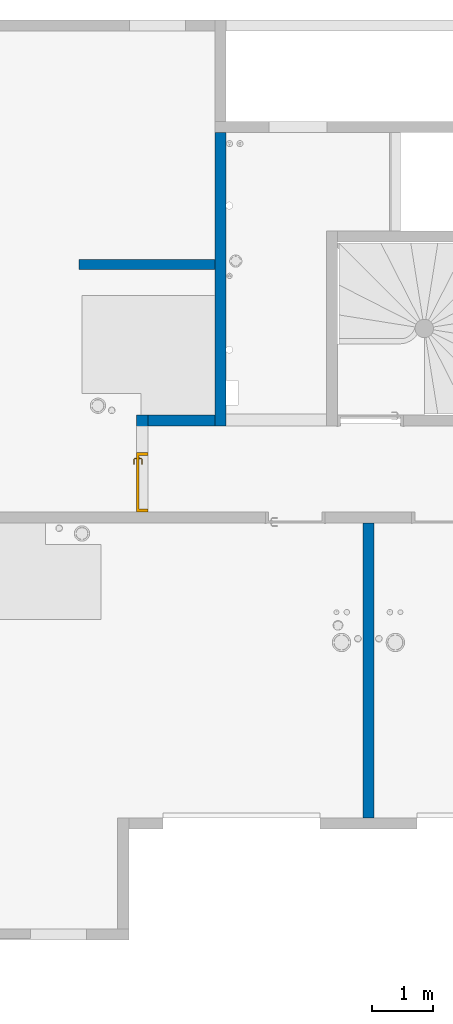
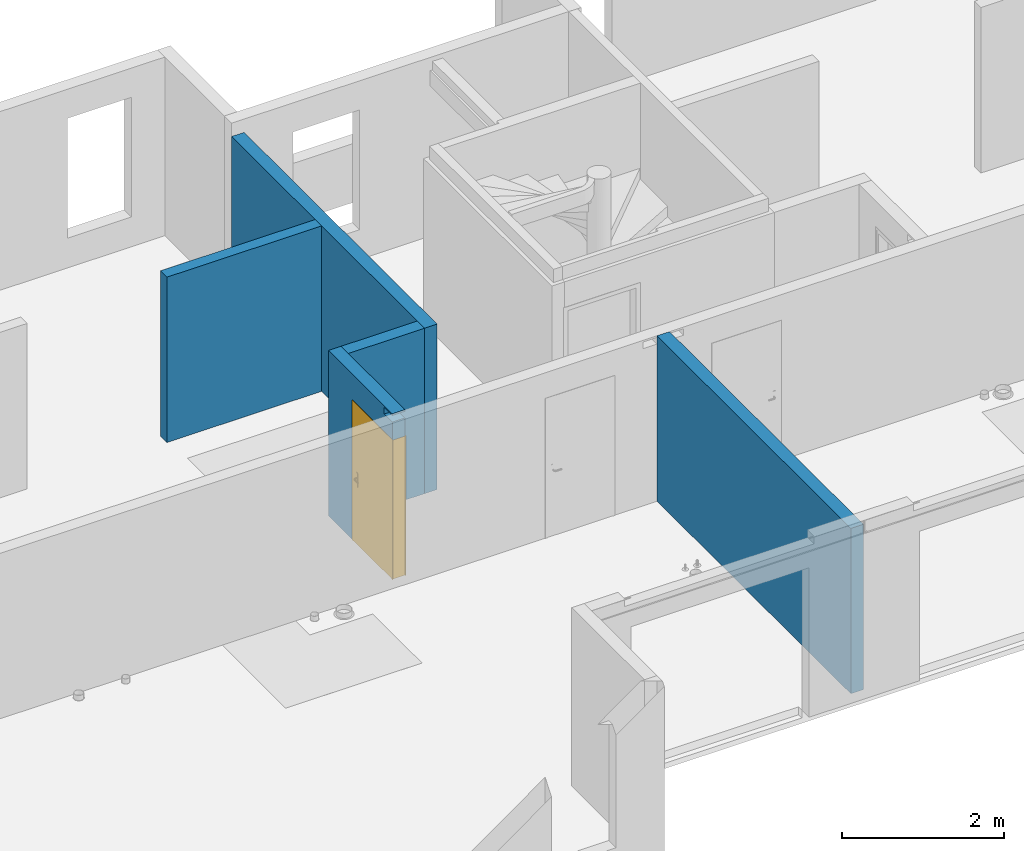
# One storey, part 7 of 24: 5 walls, 1 door, 2 openings.
"""IFC2X3 building model written with IfcOpenShell, lengths in centimetres."""

from ifc_helpers import new_model, entity, si_unit, converted_unit, derived_unit, direction, frame, frame_2d, origin, place, context, subcontext, project, spatial, rectangle, extrude, faceted_brep, source, transform, mapped, material, material_list, layer, layer_set, layer_usage, type_object, type_shapes, element, fill, save


model = new_model("IFC2X3")

# Units and contexts
model_context = context("Model", 3, precision=0.001, world=origin(), true_north=direction((6.12303176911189e-17, 1.0)))
body_context = subcontext(model_context, "Body", "Model", "MODEL_VIEW")
ifc_project = project(units=[si_unit("LENGTHUNIT", "METRE", prefix="CENTI"), si_unit("AREAUNIT", "SQUARE_METRE"), si_unit("VOLUMEUNIT", "CUBIC_METRE"), converted_unit("PLANEANGLEUNIT", "DEGREE", entity("IfcRatioMeasure", 0.0174532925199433), si_unit("PLANEANGLEUNIT", "RADIAN"), dimensions=[0, 0, 0, 0, 0, 0, 0]), si_unit("MASSUNIT", "GRAM", prefix="KILO"), derived_unit("MASSDENSITYUNIT", [(si_unit("MASSUNIT", "GRAM", prefix="KILO"), 1), (si_unit("LENGTHUNIT", "METRE"), -3)]), si_unit("TIMEUNIT", "SECOND"), si_unit("FREQUENCYUNIT", "HERTZ"), si_unit("THERMODYNAMICTEMPERATUREUNIT", "DEGREE_CELSIUS"), derived_unit("THERMALTRANSMITTANCEUNIT", [(si_unit("MASSUNIT", "GRAM", prefix="KILO"), 1), (si_unit("THERMODYNAMICTEMPERATUREUNIT", "KELVIN"), -1), (si_unit("TIMEUNIT", "SECOND"), -3)]), derived_unit("VOLUMETRICFLOWRATEUNIT", [(si_unit("LENGTHUNIT", "METRE"), 3), (si_unit("TIMEUNIT", "SECOND"), -1)]), si_unit("ELECTRICCURRENTUNIT", "AMPERE"), si_unit("ELECTRICVOLTAGEUNIT", "VOLT"), si_unit("POWERUNIT", "WATT"), si_unit("FORCEUNIT", "NEWTON"), si_unit("ILLUMINANCEUNIT", "LUX"), si_unit("LUMINOUSFLUXUNIT", "LUMEN"), si_unit("LUMINOUSINTENSITYUNIT", "CANDELA"), derived_unit("USERDEFINED", [(si_unit("MASSUNIT", "GRAM", prefix="KILO"), -1), (si_unit("LENGTHUNIT", "METRE"), -2), (si_unit("TIMEUNIT", "SECOND"), 3), (si_unit("LUMINOUSFLUXUNIT", "LUMEN"), 1)]), derived_unit("LINEARVELOCITYUNIT", [(si_unit("LENGTHUNIT", "METRE"), 1), (si_unit("TIMEUNIT", "SECOND"), -1)]), si_unit("PRESSUREUNIT", "PASCAL"), derived_unit("USERDEFINED", [(si_unit("LENGTHUNIT", "METRE"), -2), (si_unit("MASSUNIT", "GRAM", prefix="KILO"), 1), (si_unit("TIMEUNIT", "SECOND"), -2)])], contexts=[model_context])

# Site, building, storey
site_placement = place(None, origin())
site = spatial("IfcSite", under=ifc_project, at=site_placement, Name="Default", CompositionType="ELEMENT")
building_placement = place(site_placement, origin())
building = spatial("IfcBuilding", under=site, at=building_placement, Name="CAGE 03", CompositionType="ELEMENT")
storey_placement = place(building_placement, frame((0.0, 0.0, 880.0)))
storey = spatial("IfcBuildingStorey", under=building, at=storey_placement, Name="R+3", CompositionType="ELEMENT", Elevation=880.0)

# Walls
ifc_material_1 = material(Name="Béton, C25/30")
ifc_layer_1 = layer(ifc_material_1, 18.0)
ifc_layer_set_1 = layer_set([ifc_layer_1], Name="Mur de base:Voile BA 18")
ifc_layer_usage_1 = layer_usage(ifc_layer_set_1, "AXIS2", "POSITIVE", -9.0)
wall_type_1 = type_object("IfcWallType", Name="Mur de base:Voile BA 18", PredefinedType="STANDARD", material=ifc_layer_set_1)
wall_1_placement = place(storey_placement, frame((7081.36582014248, 4474.6606660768, 0.0), z_axis=(0.0, 0.0, 1.0), x_axis=(0.0, -1.0, 0.0)))
element("IfcWallStandardCase", 1, at=wall_1_placement, inside=storey, type_object=wall_type_1, material=ifc_layer_usage_1, Name="Mur de base:Voile BA 18", ObjectType="Mur de base:Voile BA 18", context=body_context, shape_type="SweptSolid", body=[
    extrude(rectangle(XDim=480.000000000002, YDim=17.9999999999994, at=frame_2d((240.000000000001, 0.0), x_axis=(-1.0, 0.0))), origin(), (0.0, 0.0, 1.0), 250.0),
])
ifc_layer_usage_2 = layer_usage(ifc_layer_set_1, "AXIS2", "NEGATIVE", 9.0)
wall_2_placement = place(storey_placement, frame((6840.36582014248, 5110.6606660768, 0.0), z_axis=(0.0, 0.0, 1.0), x_axis=(0.0, -1.0, 0.0)))
element("IfcWallStandardCase", 2, at=wall_2_placement, inside=storey, type_object=wall_type_1, material=ifc_layer_usage_2, Name="Mur de base:Voile BA 18", ObjectType="Mur de base:Voile BA 18", context=body_context, shape_type="SweptSolid", body=[
    extrude(rectangle(XDim=478.0, YDim=17.9999999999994, at=frame_2d((239.0, 1.67865721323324e-13), x_axis=(-1.0, 0.0))), origin(), (0.0, 0.0, 1.0), 250.0),
])

# Wall, openings, door
ifc_layer_usage_3 = layer_usage(ifc_layer_set_1, "AXIS2", "NEGATIVE", 9.0)
wall_3_placement = place(storey_placement, frame((6713.36582014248, 4492.6606660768, 0.0), z_axis=(0.0, 0.0, 1.0), x_axis=(0.0, 1.0, 0.0)))
wall_3 = element("IfcWallStandardCase", 3, at=wall_3_placement, inside=storey, type_object=wall_type_1, material=ifc_layer_usage_3, Name="Mur de base:Voile BA 18", ObjectType="Mur de base:Voile BA 18", context=body_context, shape_type="SweptSolid", body=[
    extrude(rectangle(XDim=158.0, YDim=17.9999999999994, at=frame_2d((79.0000000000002, 1.66977542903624e-13), x_axis=(-1.0, 0.0))), origin(), (0.0, 0.0, 1.0), 250.0),
])
opening_1_placement = place(wall_3_placement, origin())
element("IfcOpeningElement", 4, at=opening_1_placement, cuts=wall_3, Name="Mur de base:Voile BA 18", ObjectType="Opening", context=body_context, shape_type="SweptSolid", body=[
    extrude(rectangle(XDim=10.0000000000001, YDim=19.9999999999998, at=frame_2d((-4.33431068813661e-13, 1.08357767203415e-13), x_axis=(0.0, 1.0))), frame((10.0, -9.0, 242.5), z_axis=(0.0, 1.0, 0.0), x_axis=(1.0, 0.0, 0.0)), (0.0, 0.0, 1.0), 17.9999999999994),
])
opening_2_placement = place(wall_3_placement, frame((0.0, -9.0, 0.0)))
opening_2 = element("IfcOpeningElement", 5, at=opening_2_placement, cuts=wall_3, Name="Int. Simple:HB93:1", ObjectType="Opening", context=body_context, shape_type="SweptSolid", body=[
    extrude(rectangle(XDim=210.000000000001, YDim=96.9999999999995, at=frame_2d((105.000000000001, 48.4999999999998), x_axis=(1.0, 0.0))), frame((0.0, 0.0, 0.0), z_axis=(0.0, 1.0, 0.0), x_axis=(0.0, 0.0, 1.0)), (0.0, 0.0, 1.0), 18.0),
])
ifc_material_2 = material(Name="Finition Peinture - Blanc satiné")
ifc_material_3 = material(Name="Bois - Panneau de porte")
ifc_material_4 = material(Name="Bois - Cadre de porte")
ifc_material_list_1 = material_list([ifc_material_2, ifc_material_3, ifc_material_4])
ifc_material_list_2 = material_list([ifc_material_2, ifc_material_3, ifc_material_4])
door_style = type_object("IfcDoorStyle", Name="HB93", ConstructionType="NOTDEFINED", OperationType="SINGLE_SWING_LEFT", ParameterTakesPrecedence=False, Sizeable=False, material=ifc_material_list_2)
shared_shape = source(origin(), body_context, "Body", "Brep", [
    faceted_brep([(10.5352761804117, -0.500000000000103, 86.6003983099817), (11.5000000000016, -0.500000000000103, 87.0), (11.5000000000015, -0.500000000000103, 108.0), (10.5352761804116, -0.500000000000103, 108.399601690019), (9.50000000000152, -0.500000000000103, 108.535898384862), (8.46472381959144, -0.500000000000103, 108.399601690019), (7.50000000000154, -0.500000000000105, 108.0), (7.50000000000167, -0.500000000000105, 87.0), (8.46472381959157, -0.500000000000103, 86.6003983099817), (9.50000000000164, -0.500000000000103, 86.464101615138), (10.5352761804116, 0.0, 108.399601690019), (11.5000000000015, 0.0, 108.0), (11.5000000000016, 0.0, 87.0), (10.5352761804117, 0.0, 86.6003983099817), (9.50000000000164, 0.0, 86.464101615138), (8.46472381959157, 0.0, 86.6003983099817), (7.50000000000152, 0.0, 87.0), (7.50000000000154, 0.0, 108.0), (8.46472381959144, 0.0, 108.399601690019), (9.50000000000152, 0.0, 108.535898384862)], [[[0, 1, 2, 3, 4, 5, 6, 7, 8, 9]], [[10, 11, 12, 13, 14, 15, 16, 17, 18, 19]], [[16, 15, 8, 7]], [[8, 15, 14, 9]], [[14, 13, 0, 9]], [[13, 12, 1, 0]], [[2, 1, 12, 11]], [[11, 10, 3, 2]], [[3, 10, 19, 4]], [[19, 18, 5, 4]], [[18, 17, 6, 5]], [[7, 6, 17, 16]]]),
    faceted_brep([(10.5352761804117, 4.0, 86.6003983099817), (11.5000000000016, 4.0, 87.0), (11.5000000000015, 4.0, 108.0), (10.5352761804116, 4.0, 108.399601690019), (9.50000000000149, 4.0, 108.535898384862), (8.46472381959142, 4.0, 108.399601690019), (7.50000000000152, 4.0, 108.0), (7.50000000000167, 4.0, 87.0), (8.46472381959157, 4.0, 86.6003983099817), (9.50000000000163, 4.0, 86.464101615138), (10.5352761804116, 4.49999999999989, 108.399601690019), (11.5000000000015, 4.4999999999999, 108.0), (11.5000000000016, 4.4999999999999, 87.0), (10.5352761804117, 4.49999999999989, 86.6003983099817), (9.50000000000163, 4.49999999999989, 86.464101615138), (8.46472381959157, 4.49999999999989, 86.6003983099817), (7.50000000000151, 4.49999999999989, 87.0), (7.50000000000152, 4.49999999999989, 108.0), (8.46472381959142, 4.49999999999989, 108.399601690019), (9.50000000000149, 4.49999999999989, 108.535898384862)], [[[0, 1, 2, 3, 4, 5, 6, 7, 8, 9]], [[10, 11, 12, 13, 14, 15, 16, 17, 18, 19]], [[11, 10, 3, 2]], [[3, 10, 19, 4]], [[19, 18, 5, 4]], [[18, 17, 6, 5]], [[7, 6, 17, 16]], [[16, 15, 8, 7]], [[8, 15, 14, 9]], [[14, 13, 0, 9]], [[13, 12, 1, 0]], [[2, 1, 12, 11]]]),
    faceted_brep([(9.29747013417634, -0.500000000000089, 100.778044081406), (9.70252986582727, -0.500000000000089, 100.778044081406), (10.1000000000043, -0.500000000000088, 100.699999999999), (10.1000000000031, -0.500000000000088, 99.3000000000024), (9.70252986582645, -0.500000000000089, 99.2219559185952), (9.29747013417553, -0.500000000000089, 99.221955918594), (8.89999999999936, -0.500000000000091, 99.2999999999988), (8.89999999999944, -0.500000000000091, 100.7), (8.89999999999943, -3.26509507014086, 100.7), (9.29747013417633, -3.10045754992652, 100.778044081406), (10.9023585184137, -4.70534593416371, 100.778044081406), (11.0701397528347, -4.30028620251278, 100.778044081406), (9.70252986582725, -2.93267631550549, 100.778044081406), (10.1000000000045, -2.76803879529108, 100.7), (10.1000000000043, -2.76803879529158, 99.3000000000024), (9.70252986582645, -2.93267631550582, 99.2219559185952), (11.0701397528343, -4.30028620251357, 99.2219559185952), (10.9023585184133, -4.70534593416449, 99.221955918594), (9.29747013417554, -3.10045754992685, 99.221955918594), (8.89999999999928, -3.26509507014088, 99.2999999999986), (10.7377209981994, -5.1028160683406, 100.7), (11.2347772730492, -3.90281606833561, 100.7), (11.2347772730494, -3.90281606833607, 99.3000000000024), (10.7377209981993, -5.10281606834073, 99.2999999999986), (19.5018640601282, -5.1028160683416, 99.2999999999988), (19.5018640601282, -4.70534593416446, 99.221955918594), (19.5018640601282, -4.30028620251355, 99.2219559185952), (19.5018640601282, -3.90281606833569, 99.3000000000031), (19.5018640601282, -3.90281606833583, 100.7), (19.5018640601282, -4.30028620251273, 100.778044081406), (19.5018640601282, -4.70534593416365, 100.778044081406), (19.5018640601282, -5.10281606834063, 100.699999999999), (14.7307697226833, -5.10281606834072, 100.7), (15.28600190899, -4.5028160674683, 100.78786867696), (15.3683206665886, -3.9028160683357, 100.7), (15.3683206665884, -3.90281606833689, 99.3000000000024), (15.2860018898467, -4.50281607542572, 99.2121313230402), (14.7307700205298, -5.10281606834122, 99.2999999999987)], [[[0, 1, 2, 3, 4, 5, 6, 7]], [[8, 9, 0, 7]], [[9, 10, 11, 12, 1, 0]], [[12, 13, 2, 1]], [[3, 2, 13, 14]], [[14, 15, 4, 3]], [[15, 16, 17, 18, 5, 4]], [[18, 19, 6, 5]], [[7, 6, 19, 8]], [[20, 10, 9, 8]], [[11, 21, 13, 12]], [[14, 13, 21, 22]], [[22, 16, 15, 14]], [[17, 23, 19, 18]], [[8, 19, 23, 20]], [[24, 25, 26, 27, 28, 29, 30, 31]], [[32, 30, 33]], [[31, 30, 32]], [[10, 20, 32]], [[33, 34, 11]], [[21, 11, 34]], [[34, 29, 28]], [[30, 29, 33]], [[29, 34, 33]], [[10, 32, 33]], [[10, 33, 11]], [[22, 21, 34, 28, 27, 35]], [[35, 26, 36]], [[37, 36, 25]], [[22, 35, 16]], [[35, 27, 26]], [[24, 37, 25]], [[23, 17, 37]], [[37, 17, 36]], [[17, 16, 36]], [[16, 35, 36]], [[25, 36, 26]], [[20, 23, 37, 24, 31, 32]]]),
    faceted_brep([(9.29747013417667, 4.49999999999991, 100.778044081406), (8.89999999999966, 4.49999999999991, 100.7), (8.89999999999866, 4.49999999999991, 99.2999999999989), (9.2974701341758, 4.49999999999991, 99.221955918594), (9.70252986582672, 4.49999999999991, 99.2219559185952), (10.1000000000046, 4.49999999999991, 99.3000000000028), (10.1000000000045, 4.49999999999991, 100.7), (9.70252986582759, 4.49999999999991, 100.778044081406), (10.1000000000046, 6.7485204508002, 99.3000000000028), (10.1000000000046, 6.74852045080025, 100.7), (9.70252986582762, 6.91315797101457, 100.778044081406), (11.0838906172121, 8.29451872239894, 100.778044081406), (10.9161093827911, 8.69957845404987, 100.778044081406), (9.29747013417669, 7.0809392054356, 100.778044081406), (8.89999999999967, 7.24557672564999, 100.7), (8.89999999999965, 7.24557672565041, 99.2999999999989), (9.29747013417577, 7.08093920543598, 99.221955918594), (10.9161093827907, 8.69957845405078, 99.221955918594), (11.0838906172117, 8.29451872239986, 99.2219559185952), (9.7025298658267, 6.91315797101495, 99.2219559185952), (11.2485281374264, 7.89704858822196, 99.3000000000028), (11.2485281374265, 7.89704858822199, 100.7), (10.7514718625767, 9.0970485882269, 100.7), (10.751471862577, 9.0970485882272, 99.2999999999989), (19.504578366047, 7.89704858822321, 99.3000000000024), (19.504578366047, 8.29451872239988, 99.2219559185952), (19.504578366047, 8.6995784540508, 99.221955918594), (19.504578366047, 9.09704858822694, 99.2999999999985), (19.504578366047, 9.09704858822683, 100.7), (19.504578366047, 8.69957845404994, 100.778044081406), (19.504578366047, 8.29451872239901, 100.778044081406), (19.504578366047, 7.89704858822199, 100.7), (15.3765520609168, 7.89704858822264, 99.3000000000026), (15.3765532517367, 7.89704858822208, 100.7), (15.294234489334, 8.49704858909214, 100.78786867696), (14.7445205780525, 9.09704858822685, 100.7), (14.7445204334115, 9.09704858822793, 99.2999999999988), (15.2942345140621, 8.49704858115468, 99.2121313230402)], [[[0, 1, 2, 3, 4, 5, 6, 7]], [[6, 5, 8, 9]], [[9, 10, 7, 6]], [[10, 11, 12, 13, 0, 7]], [[13, 14, 1, 0]], [[2, 1, 14, 15]], [[15, 16, 3, 2]], [[16, 17, 18, 19, 4, 3]], [[19, 8, 5, 4]], [[9, 8, 20, 21]], [[21, 11, 10, 9]], [[12, 22, 14, 13]], [[15, 14, 22, 23]], [[23, 17, 16, 15]], [[18, 20, 8, 19]], [[24, 25, 26, 27, 28, 29, 30, 31]], [[21, 20, 32, 24, 31, 33]], [[33, 30, 34]], [[35, 34, 29]], [[21, 33, 11]], [[33, 31, 30]], [[28, 35, 29]], [[22, 12, 35]], [[35, 12, 34]], [[12, 11, 34]], [[11, 33, 34]], [[29, 34, 30]], [[22, 35, 28, 27, 36, 23]], [[36, 26, 37]], [[27, 26, 36]], [[17, 23, 36]], [[37, 32, 18]], [[20, 18, 32]], [[32, 25, 24]], [[26, 25, 37]], [[25, 32, 37]], [[17, 36, 37]], [[17, 37, 18]]]),
    faceted_brep([(3.50000000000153, 4.0, 206.5), (93.5000000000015, 4.0, 206.5), (93.5000000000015, 4.0, 0.0), (3.50000000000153, 4.0, 0.0), (3.50000000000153, 0.0, 206.5), (3.50000000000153, 0.0, 0.0), (93.5000000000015, 0.0, 0.0), (93.5000000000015, 0.0, 206.5)], [[[0, 1, 2, 3]], [[4, 5, 6, 7]], [[1, 0, 4, 7]], [[2, 1, 7, 6]], [[3, 2, 6, 5]], [[0, 3, 5, 4]]]),
    faceted_brep([(0.0, 0.0, 0.0), (0.0, 18.0, 0.0), (5.0, 18.0, 0.0), (5.0, 4.0, 0.0), (3.50000000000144, 4.0, 0.0), (3.50000000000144, 0.0, 0.0), (0.0, 0.0, 210.0), (0.0, 18.0, 210.0), (97.0, 18.0, 210.0), (97.0, 18.0, 0.0), (92.0, 18.0, 0.0), (92.0, 18.0, 205.0), (5.0, 18.0, 205.0), (5.0, 4.0, 205.0), (92.0, 4.0, 205.0), (92.0, 4.0, 0.0), (93.4999999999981, 4.0, 0.0), (93.4999999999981, 4.0, 206.5), (3.50000000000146, 4.0, 206.5), (3.50000000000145, 0.0, 206.5), (93.4999999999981, 0.0, 206.5), (93.4999999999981, 0.0, 0.0), (97.0, 0.0, 0.0), (97.0, 0.0, 210.0)], [[[0, 1, 2, 3, 4, 5]], [[1, 0, 6, 7]], [[2, 1, 7, 8, 9, 10, 11, 12]], [[3, 2, 12, 13]], [[4, 3, 13, 14, 15, 16, 17, 18]], [[5, 4, 18, 19]], [[0, 5, 19, 20, 21, 22, 23, 6]], [[8, 23, 22, 9]], [[22, 21, 16, 15, 10, 9]], [[14, 11, 10, 15]], [[20, 17, 16, 21]], [[7, 6, 23, 8]], [[13, 12, 11, 14]], [[19, 18, 17, 20]]]),
    faceted_brep([(1.5, 18.0, 0.0), (-1.49999999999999, 18.0, 0.0), (-1.49999999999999, 18.5000000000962, 0.0), (1.5, 18.5000000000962, 0.0), (1.5, 18.0, 208.500000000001), (95.4999999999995, 18.0, 208.500000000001), (95.4999999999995, 18.0, 0.0), (98.4999999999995, 18.0, 0.0), (98.4999999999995, 18.0, 211.500000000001), (-1.49999999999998, 18.0, 211.500000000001), (-1.49999999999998, 18.5000000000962, 211.500000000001), (98.4999999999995, 18.5000000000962, 211.500000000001), (98.4999999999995, 18.5000000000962, 0.0), (95.4999999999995, 18.5000000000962, 0.0), (95.4999999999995, 18.5000000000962, 208.500000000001), (1.50000000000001, 18.5000000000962, 208.500000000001)], [[[0, 1, 2, 3]], [[1, 0, 4, 5, 6, 7, 8, 9]], [[2, 1, 9, 10]], [[3, 2, 10, 11, 12, 13, 14, 15]], [[0, 3, 15, 4]], [[6, 13, 12, 7]], [[5, 14, 13, 6]], [[11, 8, 7, 12]], [[10, 9, 8, 11]], [[4, 15, 14, 5]]]),
    faceted_brep([(-1.49999999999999, -0.5, 0.0), (1.5, -0.5, 0.0), (1.5, -0.5, 208.500000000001), (95.4999999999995, -0.5, 208.500000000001), (95.4999999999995, -0.5, 0.0), (98.4999999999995, -0.5, 0.0), (98.4999999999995, -0.5, 211.500000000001), (-1.49999999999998, -0.5, 211.500000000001), (-1.49999999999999, 0.0, 0.0), (-1.49999999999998, 0.0, 211.500000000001), (1.5, 0.0, 0.0), (98.4999999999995, 0.0, 211.500000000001), (98.4999999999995, 0.0, 0.0), (95.4999999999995, 0.0, 0.0), (95.4999999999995, 0.0, 208.500000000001), (1.50000000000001, 0.0, 208.500000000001)], [[[0, 1, 2, 3, 4, 5, 6, 7]], [[8, 0, 7, 9]], [[10, 8, 9, 11, 12, 13, 14, 15]], [[1, 10, 15, 2]], [[3, 14, 13, 4]], [[11, 6, 5, 12]], [[9, 7, 6, 11]], [[2, 15, 14, 3]], [[4, 13, 12, 5]], [[1, 0, 8, 10]]]),
])
type_shapes(door_style, [shared_shape])
door_placement = place(opening_2_placement, frame((97.0, 18.0, 0.0), z_axis=(0.0, 0.0, 1.0), x_axis=(-1.0, 0.0, 0.0)))
door = element("IfcDoor", 6, at=door_placement, inside=storey, type_object=door_style, material=ifc_material_list_1, Name="Int. Simple:HB93", ObjectType="HB93", OverallHeight=210.000000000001, OverallWidth=96.9999999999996, context=body_context, shape_type="MappedRepresentation", body=[
    mapped(shared_shape, transform((0.0, 0.0, 0.0), scale=1.0)),
])
fill(opening_2, door)

# Walls
ifc_layer_usage_4 = layer_usage(ifc_layer_set_1, "AXIS2", "NEGATIVE", 9.0)
wall_4_placement = place(storey_placement, frame((6722.36582014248, 4641.6606660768, 0.0)))
element("IfcWallStandardCase", 7, at=wall_4_placement, inside=storey, type_object=wall_type_1, material=ifc_layer_usage_4, Name="Mur de base:Voile BA 18", ObjectType="Mur de base:Voile BA 18", context=body_context, shape_type="SweptSolid", body=[
    extrude(rectangle(XDim=109.000000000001, YDim=17.9999999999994, at=frame_2d((54.5000000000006, -1.86517468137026e-14), x_axis=(-1.0, 0.0))), origin(), (0.0, 0.0, 1.0), 250.0),
])
ifc_layer_2 = layer(ifc_material_1, 16.0)
ifc_layer_set_2 = layer_set([ifc_layer_2], Name="Mur de base:Voile BA 16")
ifc_layer_usage_5 = layer_usage(ifc_layer_set_2, "AXIS2", "NEGATIVE", 8.0)
wall_type_2 = type_object("IfcWallType", Name="Mur de base:Voile BA 16", PredefinedType="STANDARD", material=ifc_layer_set_2)
wall_5_placement = place(storey_placement, frame((6831.36582014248, 4895.6606660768, 0.0), z_axis=(0.0, 0.0, 1.0), x_axis=(-1.0, 0.0, 0.0)))
element("IfcWallStandardCase", 8, at=wall_5_placement, inside=storey, type_object=wall_type_2, material=ifc_layer_usage_5, Name="Mur de base:Voile BA 16", ObjectType="Mur de base:Voile BA 16", context=body_context, shape_type="SweptSolid", body=[
    extrude(rectangle(XDim=220.999999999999, YDim=15.9999999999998, at=frame_2d((110.5, -8.97060203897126e-14), x_axis=(-1.0, 0.0))), origin(), (0.0, 0.0, 1.0), 250.0),
])

save(model, "model.ifc")
